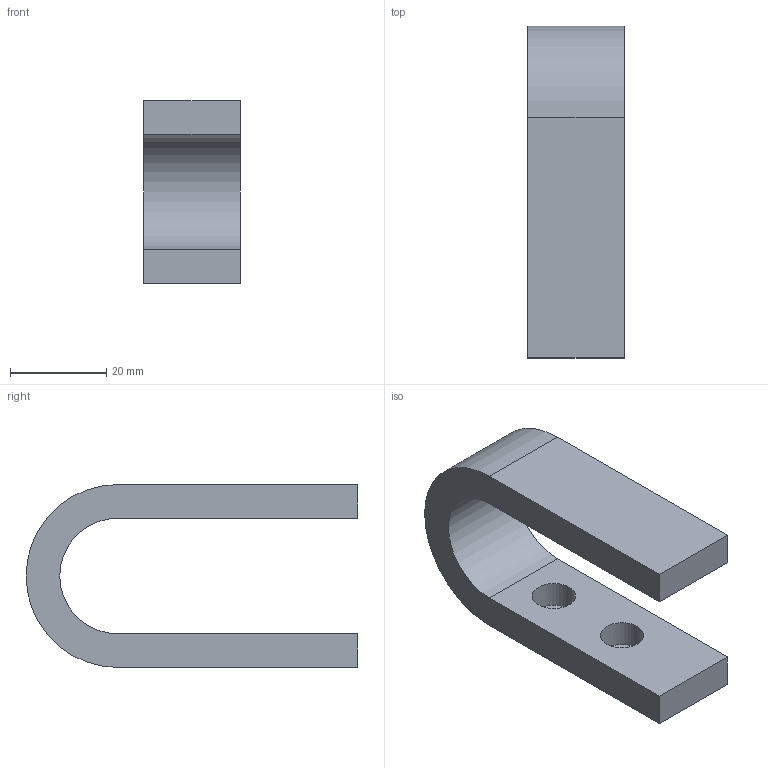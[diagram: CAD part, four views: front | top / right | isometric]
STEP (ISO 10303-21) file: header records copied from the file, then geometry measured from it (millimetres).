
FILE_DESCRIPTION(/* description */ (''),/* implementation_level */ '2;1');
FILE_NAME(/* name */ 'hand_hold v4.step',/* time_stamp */ '2026-04-10T14:29:55+02:00',/* author */ (''),/* organization */ (''),/* preprocessor_version */ 'ST-DEVELOPER v20.1',/* originating_system */ 'Autodesk Translation Framework v14.24.0.0',/* authorisation */ '');
FILE_SCHEMA (('AUTOMOTIVE_DESIGN { 1 0 10303 214 3 1 1 }'));
Length unit declared in the file: millimetre
Products named in the file (1): (Niezapisany)
Bounding box: 20 x 69 x 38 mm (x, y, z)
Volume: 20046.2 mm3; surface area: 8577.3 mm2
Topology: 1 solids, 1 shells, 16 faces, 36 edges, 24 vertices
Faces by surface type: plane 10, cylinder 6
Full cylindrical faces by diameter (mm): 5.5 x2, 9 x2
Entity records: 493 total; most frequent: DIRECTION 82, CARTESIAN_POINT 77, ORIENTED_EDGE 72, EDGE_CURVE 36, AXIS2_PLACEMENT_3D 29, LINE 24, VECTOR 24, VERTEX_POINT 24
